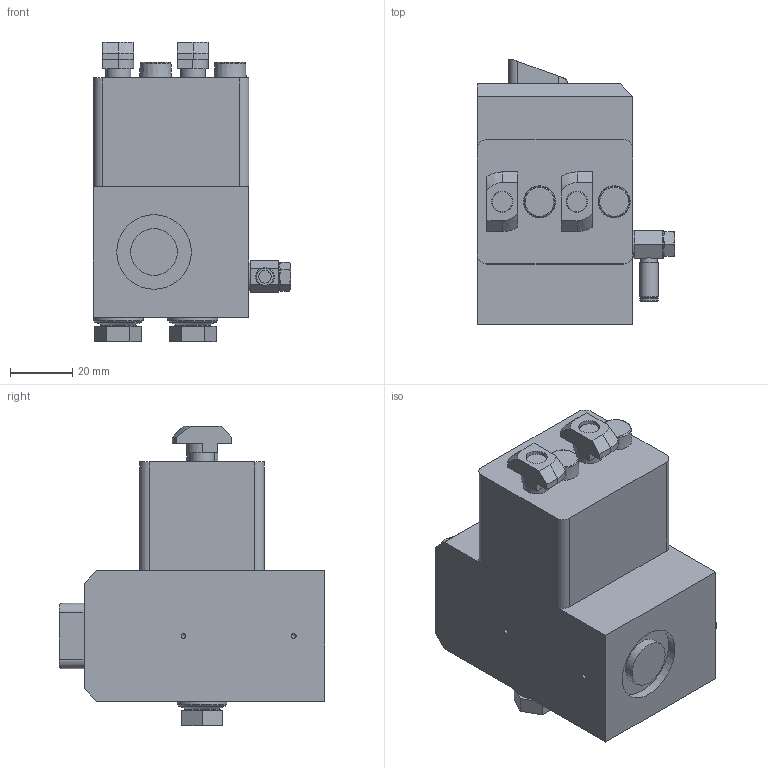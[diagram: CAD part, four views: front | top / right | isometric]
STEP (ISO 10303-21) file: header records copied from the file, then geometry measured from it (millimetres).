
FILE_DESCRIPTION (( 'STEP AP203' ), '1' );
FILE_NAME ('ASRP-100.STEP', '2017-01-25T09:52:48', ( '' ), ( '' ), 'SwSTEP 2.0', 'SolidWorks 2015', '' );
FILE_SCHEMA (( 'CONFIG_CONTROL_DESIGN' ));
Length unit declared in the file: millimetre
Products named in the file (1): ASRP-100
Bounding box: 63.45 x 85.5 x 96.4 mm (x, y, z)
Volume: 236780 mm3; surface area: 43217 mm2
Topology: 2 solids, 3 shells, 525 faces, 1359 edges, 894 vertices
Faces by surface type: plane 245, cylinder 189, bspline 44, cone 37, sphere 8, torus 2
Full cylindrical faces by diameter (mm): 1.5 x2, 4 x1, 4.2 x1, 4.5 x2, 4.8 x6, 5.1 x1, 5.4 x1, 6 x2, 6.8 x2, 8 x4, 8.2 x2, 8.4 x2, 8.5 x4, 9 x2, 11.6 x2, 14 x2, 15 x1, 16 x2, 24 x1
Entity records: 18439 total; most frequent: CARTESIAN_POINT 5954, ORIENTED_EDGE 2534, DIRECTION 2522, EDGE_CURVE 1267, AXIS2_PLACEMENT_3D 913, VERTEX_POINT 865, LINE 696, VECTOR 696
